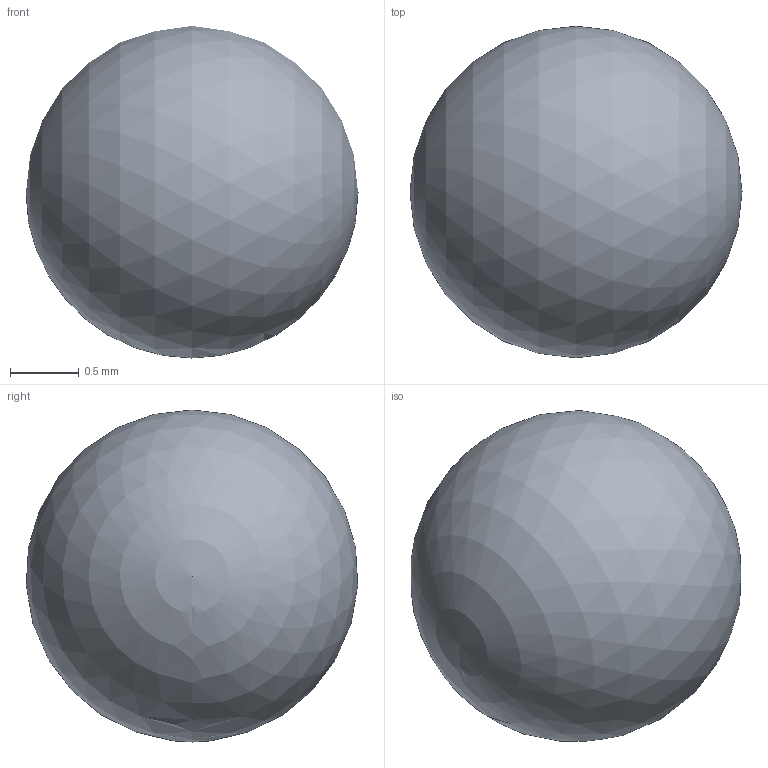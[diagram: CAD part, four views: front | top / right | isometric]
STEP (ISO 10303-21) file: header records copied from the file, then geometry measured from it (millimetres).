
FILE_DESCRIPTION(/* description */ ('STEP AP242 Edition 2','CAx-IF Rec.Pracs.---Representation and Presentation of Product Manufacturing Information (PMI)---4.0---2014-10-13','CAx-IF Rec.Pracs.---3D Tessellated Geometry---0.4---2014-09-14','2;1','CAx-IF Rec.Pracs.---User Defined Attributes---1.5---2016-08-15'),/* implementation_level */ '2;1');
FILE_NAME(/* name */ 'Assembly V2 - 6153K113_Stainless Steel Ball Bearing',/* time_stamp */ '2026-02-05T22:44:35Z',/* author */ (''),/* organization */ (''),/* preprocessor_version */ 'ST-DEVELOPER v20',/* originating_system */ 'ONSHAPE BY PTC INC, 1.210',/* authorisation */ ' ');
FILE_SCHEMA (('AP242_MANAGED_MODEL_BASED_3D_ENGINEERING_MIM_LF { 1 0 10303 442 3 1 4 }'));
Length unit declared in the file: metre
Products named in the file (1): 6153K113_Stainless Steel Ball Bearing
Bounding box: 2.42 x 2.42 x 2.42 mm (x, y, z)
Volume: 7.5 mm3; surface area: 18.5 mm2
Topology: 1 solids, 1 shells, 1 faces, 3 edges, 2 vertices
Faces by surface type: sphere 1
Entity records: 40 total; most frequent: DIRECTION 4, CARTESIAN_POINT 3, AXIS2_PLACEMENT_3D 2, SHAPE_REPRESENTATION_RELATIONSHIP 1, ADVANCED_BREP_SHAPE_REPRESENTATION 1, VERTEX_POINT 1, VERTEX_LOOP 1, FACE_BOUND 1
